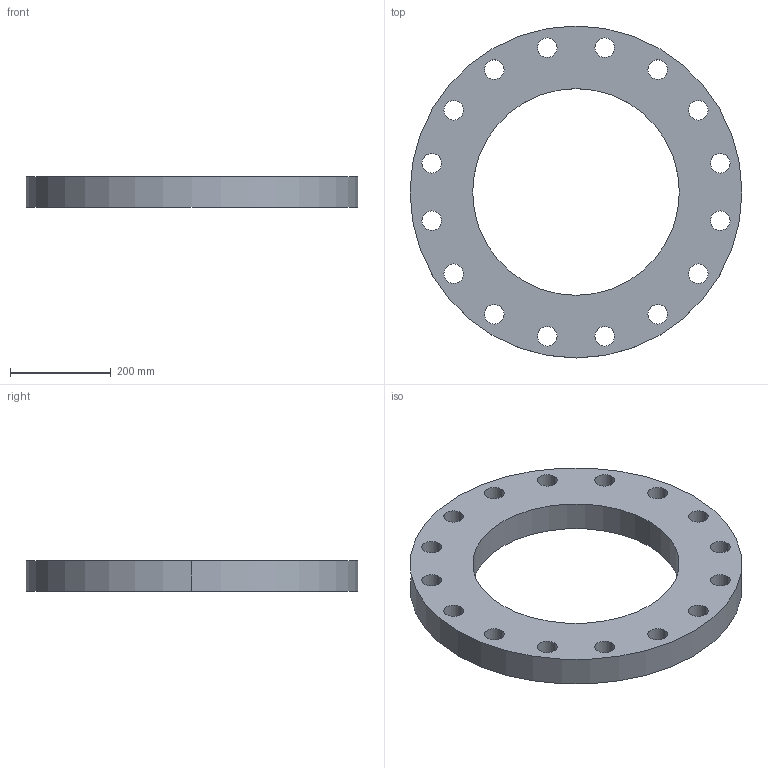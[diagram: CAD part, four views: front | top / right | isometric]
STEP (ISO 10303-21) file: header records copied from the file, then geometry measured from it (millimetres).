
FILE_DESCRIPTION (( 'STEP AP214' ), '1' );
FILE_NAME ('PN40 DN400 Type 01 - Type A Face.STEP', '2019-01-05T23:25:52', ( '' ), ( '' ), 'SwSTEP 2.0', 'SolidWorks 2019', '' );
FILE_SCHEMA (( 'AUTOMOTIVE_DESIGN' ));
Length unit declared in the file: millimetre
Products named in the file (1): PN40 DN400 Type 01 - Type A Face
Bounding box: 660 x 660 x 60 mm (x, y, z)
Volume: 11420144.8 mm3; surface area: 700171.5 mm2
Topology: 1 solids, 1 shells, 38 faces, 108 edges, 72 vertices
Faces by surface type: cylinder 36, plane 2
Entity records: 1386 total; most frequent: DIRECTION 258, CARTESIAN_POINT 219, ORIENTED_EDGE 216, AXIS2_PLACEMENT_3D 111, EDGE_CURVE 108, CIRCLE 72, EDGE_LOOP 72, VERTEX_POINT 72
